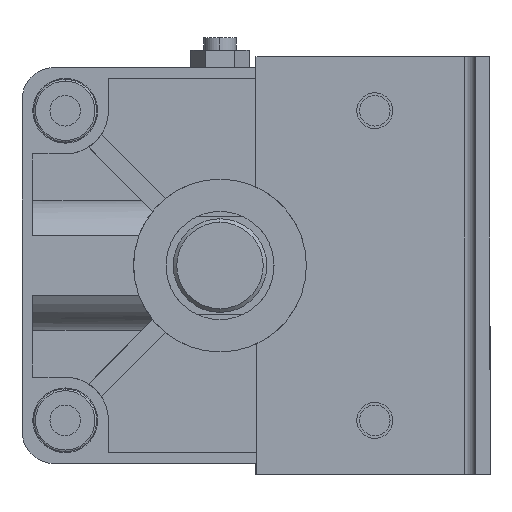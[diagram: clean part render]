
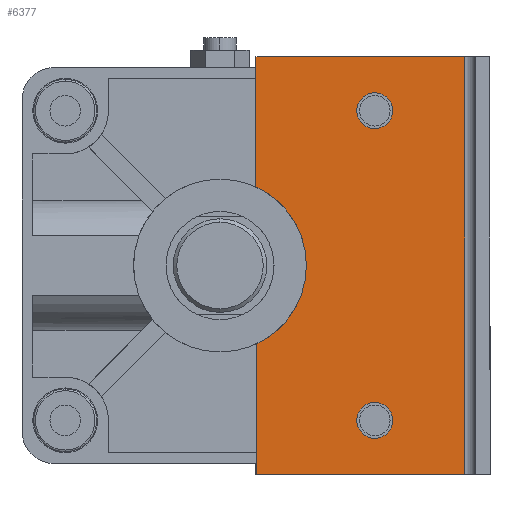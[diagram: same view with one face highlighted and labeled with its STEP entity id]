
A CAD part, left-side view. The second image highlights one B-rep face of the part: STEP entity #6377.
In plain terms, the highlighted planar face has unit normal (-1, 0, 0) as drawn and (0, 0, 1) by its records, which use the part's own axes.
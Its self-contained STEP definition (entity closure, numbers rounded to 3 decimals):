
#30 = DIRECTION ( 'NONE',  ( 0., 0., -1. ) ) ;
#113 = LINE ( 'NONE', #1579, #6121 ) ;
#159 = DIRECTION ( 'NONE',  ( 1., 0., 0. ) ) ;
#175 = EDGE_LOOP ( 'NONE', ( #7915, #1658, #3965, #374, #7799, #6175 ) ) ;
#327 = LINE ( 'NONE', #7376, #4884 ) ;
#374 = ORIENTED_EDGE ( 'NONE', *, *, #4077, .F. ) ;
#402 = CARTESIAN_POINT ( 'NONE',  ( 43., -43., 0. ) ) ;
#435 = VERTEX_POINT ( 'NONE', #2781 ) ;
#596 = EDGE_LOOP ( 'NONE', ( #1049, #2839 ) ) ;
#597 = EDGE_CURVE ( 'NONE', #776, #1845, #2716, .T. ) ;
#614 = DIRECTION ( 'NONE',  ( 1., 0., 0. ) ) ;
#677 = CARTESIAN_POINT ( 'NONE',  ( 21.817, -10., 0. ) ) ;
#776 = VERTEX_POINT ( 'NONE', #5412 ) ;
#779 = CIRCLE ( 'NONE', #2249, 5. ) ;
#809 = CIRCLE ( 'NONE', #7945, 5. ) ;
#868 = VERTEX_POINT ( 'NONE', #6490 ) ;
#1049 = ORIENTED_EDGE ( 'NONE', *, *, #2504, .T. ) ;
#1101 = VERTEX_POINT ( 'NONE', #7466 ) ;
#1172 = CARTESIAN_POINT ( 'NONE',  ( 43., -43., 0. ) ) ;
#1240 = DIRECTION ( 'NONE',  ( 1., 0., 0. ) ) ;
#1294 = VERTEX_POINT ( 'NONE', #6838 ) ;
#1455 = EDGE_CURVE ( 'NONE', #1101, #1845, #6969, .T. ) ;
#1548 = FACE_BOUND ( 'NONE', #4362, .T. ) ;
#1579 = CARTESIAN_POINT ( 'NONE',  ( 0., -68., 0. ) ) ;
#1658 = ORIENTED_EDGE ( 'NONE', *, *, #597, .T. ) ;
#1845 = VERTEX_POINT ( 'NONE', #6284 ) ;
#1895 = CARTESIAN_POINT ( 'NONE',  ( -48., -43., 0. ) ) ;
#1982 = EDGE_CURVE ( 'NONE', #435, #4820, #2963, .T. ) ;
#2073 = EDGE_CURVE ( 'NONE', #435, #2816, #327, .T. ) ;
#2249 = AXIS2_PLACEMENT_3D ( 'NONE', #2586, #4826, #7245 ) ;
#2467 = PLANE ( 'NONE',  #6685 ) ;
#2504 = EDGE_CURVE ( 'NONE', #1294, #4323, #809, .T. ) ;
#2586 = CARTESIAN_POINT ( 'NONE',  ( -43., -43., 0. ) ) ;
#2650 = CIRCLE ( 'NONE', #4993, 5. ) ;
#2716 = LINE ( 'NONE', #6468, #7060 ) ;
#2781 = CARTESIAN_POINT ( 'NONE',  ( 58., -10., 0. ) ) ;
#2816 = VERTEX_POINT ( 'NONE', #4875 ) ;
#2839 = ORIENTED_EDGE ( 'NONE', *, *, #7929, .T. ) ;
#2894 = VECTOR ( 'NONE', #4418, 1000. ) ;
#2963 = LINE ( 'NONE', #6989, #2894 ) ;
#3031 = ORIENTED_EDGE ( 'NONE', *, *, #6982, .T. ) ;
#3463 = CARTESIAN_POINT ( 'NONE',  ( -58., -42.5, 0. ) ) ;
#3603 = AXIS2_PLACEMENT_3D ( 'NONE', #4027, #3877, #1240 ) ;
#3670 = DIRECTION ( 'NONE',  ( -1., 0., 0. ) ) ;
#3877 = DIRECTION ( 'NONE',  ( 0., 0., -1. ) ) ;
#3965 = ORIENTED_EDGE ( 'NONE', *, *, #1455, .F. ) ;
#4027 = CARTESIAN_POINT ( 'NONE',  ( 0., 0., 0. ) ) ;
#4077 = EDGE_CURVE ( 'NONE', #2816, #1101, #113, .T. ) ;
#4098 = CIRCLE ( 'NONE', #6470, 5. ) ;
#4323 = VERTEX_POINT ( 'NONE', #1895 ) ;
#4355 = CIRCLE ( 'NONE', #3603, 24. ) ;
#4362 = EDGE_LOOP ( 'NONE', ( #3031, #4757 ) ) ;
#4386 = CARTESIAN_POINT ( 'NONE',  ( 38., -43., 0. ) ) ;
#4418 = DIRECTION ( 'NONE',  ( -1., 0., 0. ) ) ;
#4437 = CARTESIAN_POINT ( 'NONE',  ( -58., -68., 0. ) ) ;
#4534 = DIRECTION ( 'NONE',  ( 0., 1., 0. ) ) ;
#4757 = ORIENTED_EDGE ( 'NONE', *, *, #7319, .T. ) ;
#4820 = VERTEX_POINT ( 'NONE', #677 ) ;
#4826 = DIRECTION ( 'NONE',  ( 0., 0., -1. ) ) ;
#4875 = CARTESIAN_POINT ( 'NONE',  ( 58., -68., 0. ) ) ;
#4884 = VECTOR ( 'NONE', #5001, 1000. ) ;
#4993 = AXIS2_PLACEMENT_3D ( 'NONE', #402, #7195, #5203 ) ;
#5001 = DIRECTION ( 'NONE',  ( 0., -1., 0. ) ) ;
#5052 = DIRECTION ( 'NONE',  ( 0., 0., -1. ) ) ;
#5203 = DIRECTION ( 'NONE',  ( 1., 0., 0. ) ) ;
#5412 = CARTESIAN_POINT ( 'NONE',  ( -21.817, -10., 0. ) ) ;
#5584 = DIRECTION ( 'NONE',  ( 1., 0., 0. ) ) ;
#5921 = DIRECTION ( 'NONE',  ( -1., 0., 0. ) ) ;
#6121 = VECTOR ( 'NONE', #3670, 1000. ) ;
#6175 = ORIENTED_EDGE ( 'NONE', *, *, #1982, .T. ) ;
#6284 = CARTESIAN_POINT ( 'NONE',  ( -58., -10., 0. ) ) ;
#6333 = DIRECTION ( 'NONE',  ( 0., 0., 1. ) ) ;
#6377 = ADVANCED_FACE ( 'NONE', ( #8011, #1548, #7752 ), #2467, .T. ) ;
#6468 = CARTESIAN_POINT ( 'NONE',  ( 0., -10., 0. ) ) ;
#6470 = AXIS2_PLACEMENT_3D ( 'NONE', #1172, #5052, #5584 ) ;
#6490 = CARTESIAN_POINT ( 'NONE',  ( 48., -43., 0. ) ) ;
#6685 = AXIS2_PLACEMENT_3D ( 'NONE', #4437, #6333, #614 ) ;
#6799 = VECTOR ( 'NONE', #4534, 1000. ) ;
#6838 = CARTESIAN_POINT ( 'NONE',  ( -38., -43., 0. ) ) ;
#6969 = LINE ( 'NONE', #3463, #6799 ) ;
#6982 = EDGE_CURVE ( 'NONE', #868, #8168, #2650, .T. ) ;
#6989 = CARTESIAN_POINT ( 'NONE',  ( 0., -10., 0. ) ) ;
#7060 = VECTOR ( 'NONE', #5921, 1000. ) ;
#7195 = DIRECTION ( 'NONE',  ( 0., 0., -1. ) ) ;
#7217 = CARTESIAN_POINT ( 'NONE',  ( -43., -43., 0. ) ) ;
#7245 = DIRECTION ( 'NONE',  ( 1., 0., 0. ) ) ;
#7319 = EDGE_CURVE ( 'NONE', #8168, #868, #4098, .T. ) ;
#7376 = CARTESIAN_POINT ( 'NONE',  ( 58., -42.5, 0. ) ) ;
#7466 = CARTESIAN_POINT ( 'NONE',  ( -58., -68., 0. ) ) ;
#7752 = FACE_OUTER_BOUND ( 'NONE', #175, .T. ) ;
#7799 = ORIENTED_EDGE ( 'NONE', *, *, #2073, .F. ) ;
#7834 = EDGE_CURVE ( 'NONE', #4820, #776, #4355, .T. ) ;
#7915 = ORIENTED_EDGE ( 'NONE', *, *, #7834, .T. ) ;
#7929 = EDGE_CURVE ( 'NONE', #4323, #1294, #779, .T. ) ;
#7945 = AXIS2_PLACEMENT_3D ( 'NONE', #7217, #30, #159 ) ;
#8011 = FACE_BOUND ( 'NONE', #596, .T. ) ;
#8168 = VERTEX_POINT ( 'NONE', #4386 ) ;
